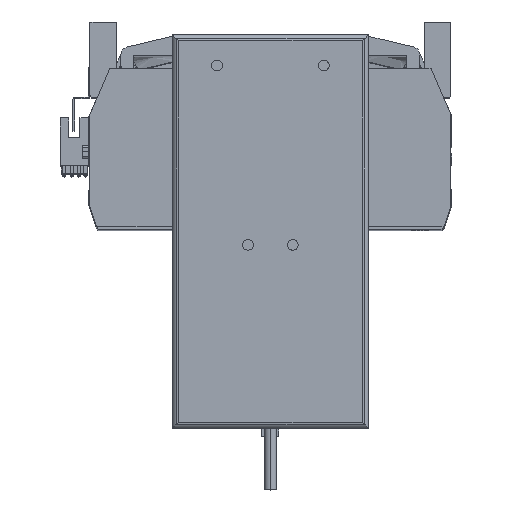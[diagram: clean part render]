
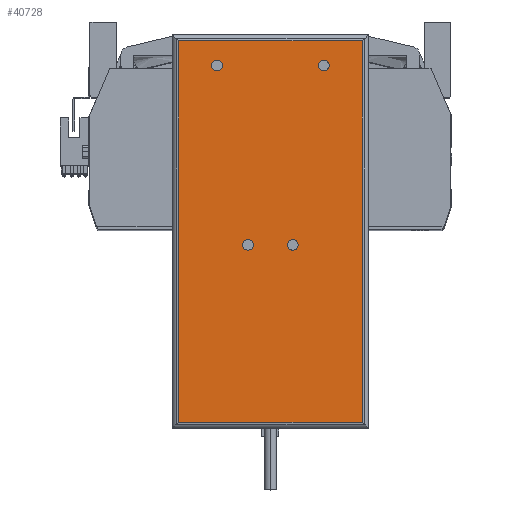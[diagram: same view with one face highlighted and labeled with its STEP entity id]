
A CAD part, top view. The second image highlights one B-rep face of the part: STEP entity #40728.
In plain terms, the highlighted planar face has unit normal (0, 0, 1) as drawn and (0, 0, -1) by its records, which use the part's own axes.
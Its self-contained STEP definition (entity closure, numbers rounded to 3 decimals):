
#720 = VECTOR ( 'NONE', #45559, 1000. ) ;
#721 = EDGE_CURVE ( 'NONE', #45268, #5541, #40467, .T. ) ;
#995 = VERTEX_POINT ( 'NONE', #39165 ) ;
#1061 = VERTEX_POINT ( 'NONE', #29507 ) ;
#1482 = DIRECTION ( 'NONE',  ( 0., -1., 0. ) ) ;
#1629 = AXIS2_PLACEMENT_3D ( 'NONE', #17485, #38937, #39244 ) ;
#1662 = CARTESIAN_POINT ( 'NONE',  ( 10.5, -6.25, 0. ) ) ;
#2571 = CARTESIAN_POINT ( 'NONE',  ( 10.5, -6.25, 0. ) ) ;
#2660 = EDGE_CURVE ( 'NONE', #5541, #45268, #18913, .T. ) ;
#4394 = EDGE_CURVE ( 'NONE', #9403, #24281, #37370, .T. ) ;
#4672 = EDGE_CURVE ( 'NONE', #1061, #24082, #21065, .T. ) ;
#5541 = VERTEX_POINT ( 'NONE', #7583 ) ;
#5686 = CARTESIAN_POINT ( 'NONE',  ( 22.5, 77.75, 0. ) ) ;
#5805 = DIRECTION ( 'NONE',  ( 0., 0., -1. ) ) ;
#6665 = DIRECTION ( 'NONE',  ( 0., 0., -1. ) ) ;
#6895 = FACE_BOUND ( 'NONE', #14768, .T. ) ;
#7371 = AXIS2_PLACEMENT_3D ( 'NONE', #19014, #44595, #11342 ) ;
#7583 = CARTESIAN_POINT ( 'NONE',  ( -22.5, 77.75, 0. ) ) ;
#7649 = CARTESIAN_POINT ( 'NONE',  ( -8., -6.25, 0. ) ) ;
#7913 = EDGE_LOOP ( 'NONE', ( #10534, #20535 ) ) ;
#8001 = DIRECTION ( 'NONE',  ( 1., 0., 0. ) ) ;
#8021 = FACE_OUTER_BOUND ( 'NONE', #37028, .T. ) ;
#8034 = AXIS2_PLACEMENT_3D ( 'NONE', #27514, #5805, #27659 ) ;
#8352 = CARTESIAN_POINT ( 'NONE',  ( -13., -6.25, 0. ) ) ;
#8635 = AXIS2_PLACEMENT_3D ( 'NONE', #45993, #28289, #31898 ) ;
#9340 = VECTOR ( 'NONE', #1482, 1000. ) ;
#9403 = VERTEX_POINT ( 'NONE', #5686 ) ;
#10276 = EDGE_CURVE ( 'NONE', #24281, #9403, #32010, .T. ) ;
#10534 = ORIENTED_EDGE ( 'NONE', *, *, #23680, .F. ) ;
#10561 = CARTESIAN_POINT ( 'NONE',  ( 27.5, 77.75, 0. ) ) ;
#10724 = ORIENTED_EDGE ( 'NONE', *, *, #4394, .F. ) ;
#11342 = DIRECTION ( 'NONE',  ( -1., 0., 0. ) ) ;
#12057 = DIRECTION ( 'NONE',  ( 0., 1., 0. ) ) ;
#13120 = CARTESIAN_POINT ( 'NONE',  ( -43., 89.25, 0. ) ) ;
#13408 = EDGE_CURVE ( 'NONE', #995, #1061, #29026, .T. ) ;
#13705 = CARTESIAN_POINT ( 'NONE',  ( 25., 77.75, 0. ) ) ;
#14532 = CARTESIAN_POINT ( 'NONE',  ( -46., -92.25, 0. ) ) ;
#14768 = EDGE_LOOP ( 'NONE', ( #34701, #42283 ) ) ;
#14851 = PLANE ( 'NONE',  #35200 ) ;
#14939 = VERTEX_POINT ( 'NONE', #8352 ) ;
#16047 = VECTOR ( 'NONE', #25092, 1000. ) ;
#16100 = AXIS2_PLACEMENT_3D ( 'NONE', #1662, #34580, #45200 ) ;
#16597 = FACE_BOUND ( 'NONE', #20390, .T. ) ;
#17258 = VERTEX_POINT ( 'NONE', #25746 ) ;
#17485 = CARTESIAN_POINT ( 'NONE',  ( 25., 77.75, 0. ) ) ;
#18383 = DIRECTION ( 'NONE',  ( 0., 0., 1. ) ) ;
#18913 = CIRCLE ( 'NONE', #35053, 2.5 ) ;
#19014 = CARTESIAN_POINT ( 'NONE',  ( -25., 77.75, 0. ) ) ;
#19824 = EDGE_CURVE ( 'NONE', #23687, #17258, #40419, .T. ) ;
#19857 = AXIS2_PLACEMENT_3D ( 'NONE', #2571, #6665, #20857 ) ;
#19911 = ORIENTED_EDGE ( 'NONE', *, *, #10276, .F. ) ;
#20390 = EDGE_LOOP ( 'NONE', ( #27309, #27989 ) ) ;
#20535 = ORIENTED_EDGE ( 'NONE', *, *, #19824, .F. ) ;
#20857 = DIRECTION ( 'NONE',  ( -1., 0., 0. ) ) ;
#21065 = LINE ( 'NONE', #33584, #27250 ) ;
#23680 = EDGE_CURVE ( 'NONE', #17258, #23687, #36113, .T. ) ;
#23687 = VERTEX_POINT ( 'NONE', #28088 ) ;
#23994 = CARTESIAN_POINT ( 'NONE',  ( -25., 77.75, 0. ) ) ;
#24082 = VERTEX_POINT ( 'NONE', #13120 ) ;
#24281 = VERTEX_POINT ( 'NONE', #10561 ) ;
#25092 = DIRECTION ( 'NONE',  ( -1., 0., 0. ) ) ;
#25424 = AXIS2_PLACEMENT_3D ( 'NONE', #13705, #28298, #28148 ) ;
#25746 = CARTESIAN_POINT ( 'NONE',  ( 8., -6.25, 0. ) ) ;
#26342 = ORIENTED_EDGE ( 'NONE', *, *, #35265, .T. ) ;
#26398 = EDGE_CURVE ( 'NONE', #14939, #46794, #44983, .T. ) ;
#27250 = VECTOR ( 'NONE', #12057, 1000. ) ;
#27260 = EDGE_CURVE ( 'NONE', #24082, #42578, #46606, .T. ) ;
#27309 = ORIENTED_EDGE ( 'NONE', *, *, #721, .F. ) ;
#27406 = CARTESIAN_POINT ( 'NONE',  ( -46., 89.25, 0. ) ) ;
#27514 = CARTESIAN_POINT ( 'NONE',  ( -10.5, -6.25, 0. ) ) ;
#27574 = ORIENTED_EDGE ( 'NONE', *, *, #27260, .T. ) ;
#27659 = DIRECTION ( 'NONE',  ( -1., 0., 0. ) ) ;
#27989 = ORIENTED_EDGE ( 'NONE', *, *, #2660, .F. ) ;
#28088 = CARTESIAN_POINT ( 'NONE',  ( 13., -6.25, 0. ) ) ;
#28148 = DIRECTION ( 'NONE',  ( -1., 0., 0. ) ) ;
#28289 = DIRECTION ( 'NONE',  ( 0., 0., -1. ) ) ;
#28298 = DIRECTION ( 'NONE',  ( 0., 0., -1. ) ) ;
#29026 = LINE ( 'NONE', #43118, #16047 ) ;
#29507 = CARTESIAN_POINT ( 'NONE',  ( -43., -89.25, 0. ) ) ;
#31898 = DIRECTION ( 'NONE',  ( -1., 0., 0. ) ) ;
#32010 = CIRCLE ( 'NONE', #1629, 2.5 ) ;
#33143 = ORIENTED_EDGE ( 'NONE', *, *, #13408, .T. ) ;
#33156 = LINE ( 'NONE', #35709, #9340 ) ;
#33518 = FACE_BOUND ( 'NONE', #44798, .T. ) ;
#33584 = CARTESIAN_POINT ( 'NONE',  ( -43., -92.25, 0. ) ) ;
#34343 = EDGE_CURVE ( 'NONE', #46794, #14939, #37740, .T. ) ;
#34580 = DIRECTION ( 'NONE',  ( 0., 0., -1. ) ) ;
#34701 = ORIENTED_EDGE ( 'NONE', *, *, #26398, .F. ) ;
#35053 = AXIS2_PLACEMENT_3D ( 'NONE', #23994, #46427, #39614 ) ;
#35200 = AXIS2_PLACEMENT_3D ( 'NONE', #14532, #18383, #8001 ) ;
#35265 = EDGE_CURVE ( 'NONE', #42578, #995, #33156, .T. ) ;
#35709 = CARTESIAN_POINT ( 'NONE',  ( 43., -92.25, 0. ) ) ;
#36113 = CIRCLE ( 'NONE', #19857, 2.5 ) ;
#37028 = EDGE_LOOP ( 'NONE', ( #26342, #33143, #39660, #27574 ) ) ;
#37370 = CIRCLE ( 'NONE', #25424, 2.5 ) ;
#37740 = CIRCLE ( 'NONE', #8635, 2.5 ) ;
#38937 = DIRECTION ( 'NONE',  ( 0., 0., -1. ) ) ;
#39165 = CARTESIAN_POINT ( 'NONE',  ( 43., -89.25, 0. ) ) ;
#39244 = DIRECTION ( 'NONE',  ( -1., 0., 0. ) ) ;
#39614 = DIRECTION ( 'NONE',  ( -1., 0., 0. ) ) ;
#39660 = ORIENTED_EDGE ( 'NONE', *, *, #4672, .T. ) ;
#40243 = CARTESIAN_POINT ( 'NONE',  ( -27.5, 77.75, 0. ) ) ;
#40419 = CIRCLE ( 'NONE', #16100, 2.5 ) ;
#40467 = CIRCLE ( 'NONE', #7371, 2.5 ) ;
#40728 = ADVANCED_FACE ( 'NONE', ( #8021, #6895, #44884, #16597, #33518 ), #14851, .F. ) ;
#42283 = ORIENTED_EDGE ( 'NONE', *, *, #34343, .F. ) ;
#42578 = VERTEX_POINT ( 'NONE', #43074 ) ;
#43074 = CARTESIAN_POINT ( 'NONE',  ( 43., 89.25, 0. ) ) ;
#43118 = CARTESIAN_POINT ( 'NONE',  ( -46., -89.25, 0. ) ) ;
#44595 = DIRECTION ( 'NONE',  ( 0., 0., -1. ) ) ;
#44798 = EDGE_LOOP ( 'NONE', ( #10724, #19911 ) ) ;
#44884 = FACE_BOUND ( 'NONE', #7913, .T. ) ;
#44983 = CIRCLE ( 'NONE', #8034, 2.5 ) ;
#45200 = DIRECTION ( 'NONE',  ( -1., 0., 0. ) ) ;
#45268 = VERTEX_POINT ( 'NONE', #40243 ) ;
#45559 = DIRECTION ( 'NONE',  ( 1., 0., 0. ) ) ;
#45993 = CARTESIAN_POINT ( 'NONE',  ( -10.5, -6.25, 0. ) ) ;
#46427 = DIRECTION ( 'NONE',  ( 0., 0., -1. ) ) ;
#46606 = LINE ( 'NONE', #27406, #720 ) ;
#46794 = VERTEX_POINT ( 'NONE', #7649 ) ;
